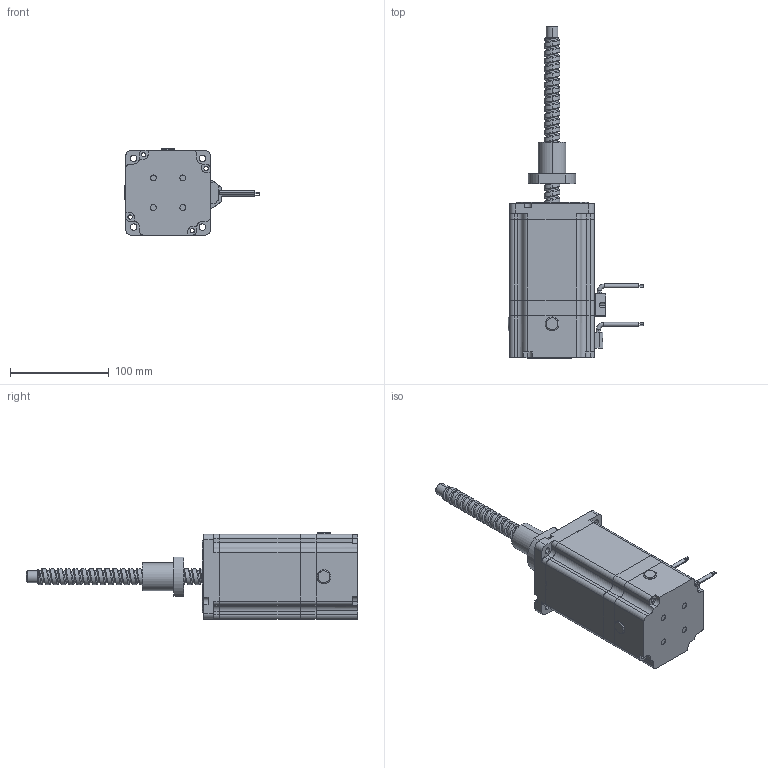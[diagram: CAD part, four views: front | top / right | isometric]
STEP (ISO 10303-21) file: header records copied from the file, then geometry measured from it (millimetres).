
FILE_DESCRIPTION (( 'STEP AP203' ), '1' );
FILE_NAME ('86E2114-BS1605-6-4-180B-001.STEP', '2020-08-27T06:20:32', ( '' ), ( '' ), 'SwSTEP 2.0', 'SolidWorks 2017', '' );
FILE_SCHEMA (( 'CONFIG_CONTROL_DESIGN' ));
Length unit declared in the file: millimetre
Products named in the file (1): 86E2114-BS1605-6-4-180B-001
Bounding box: 137.5 x 336.5 x 87.5 mm (x, y, z)
Volume: 1065540.9 mm3; surface area: 120657.1 mm2
Topology: 5 solids, 5 shells, 399 faces, 1054 edges, 693 vertices
Faces by surface type: cylinder 227, plane 143, torus 16, cone 10, bspline 3
Entity records: 19312 total; most frequent: CARTESIAN_POINT 9125, DIRECTION 2166, ORIENTED_EDGE 2108, EDGE_CURVE 1054, AXIS2_PLACEMENT_3D 816, VERTEX_POINT 693, VECTOR 534, LINE 534
